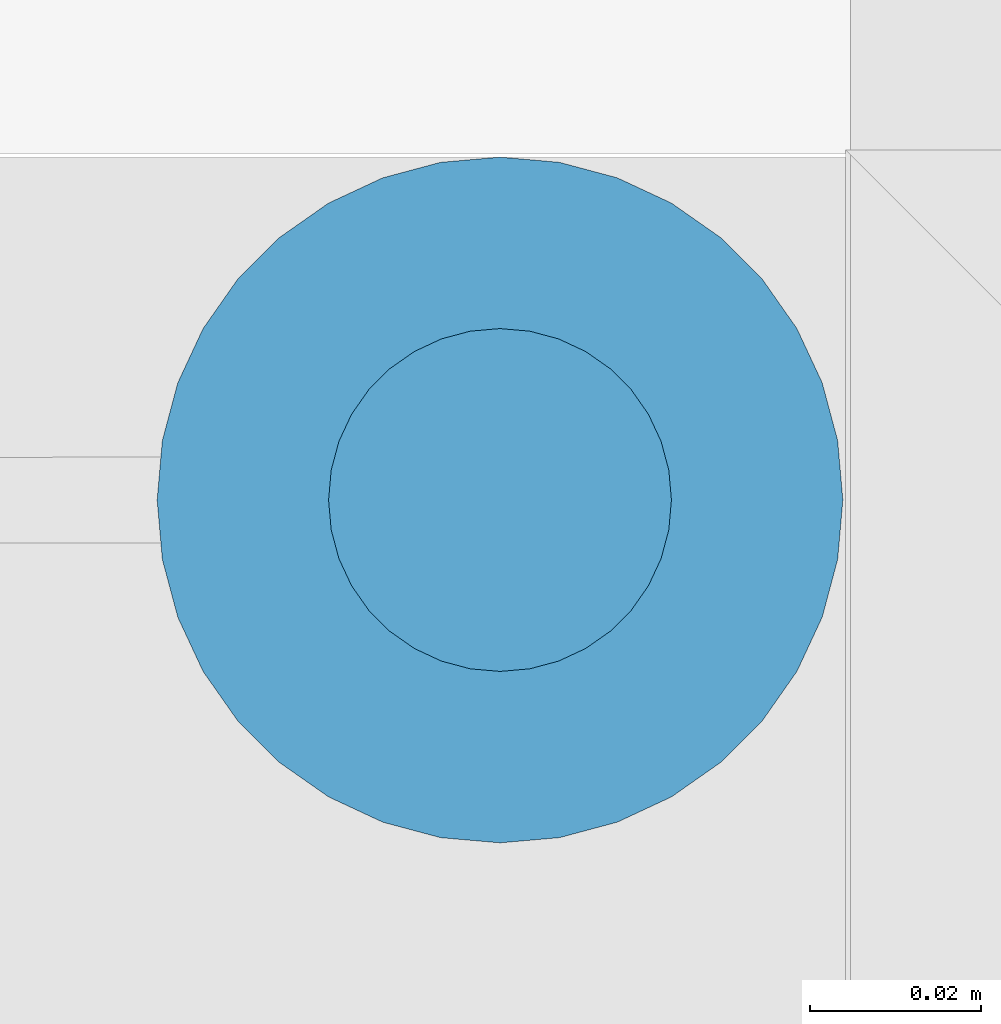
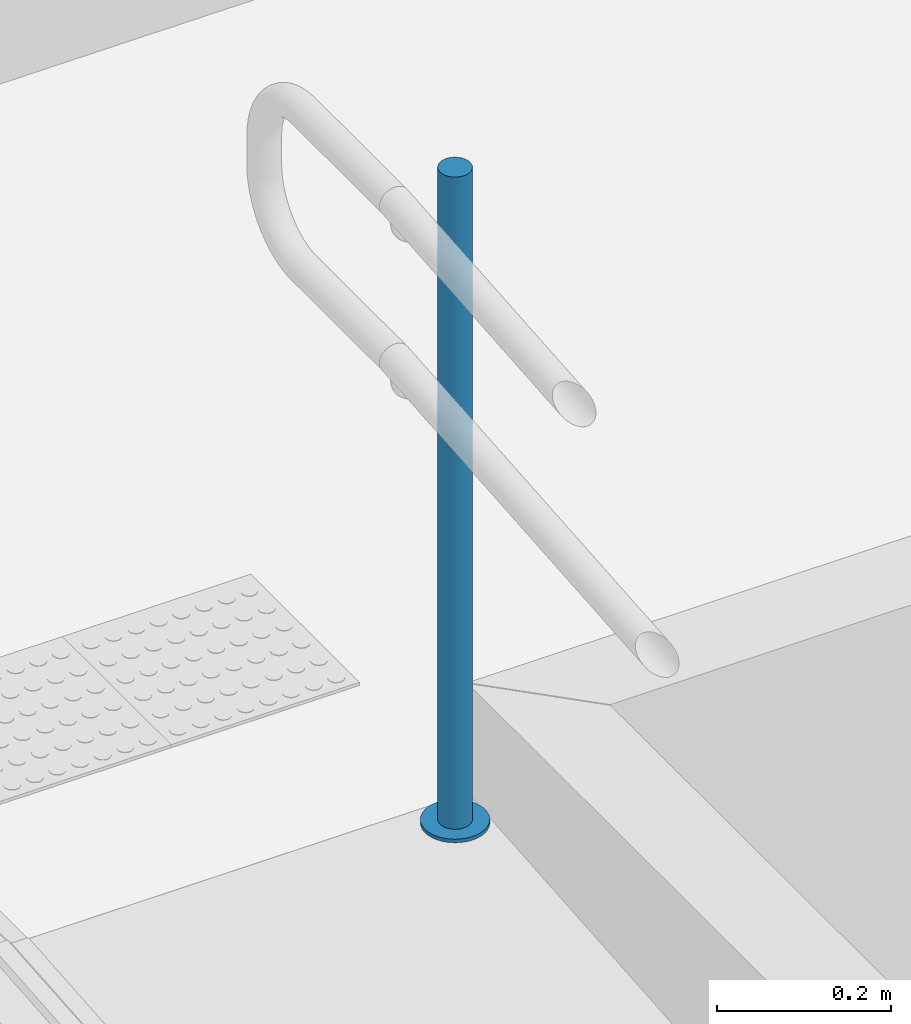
# One storey, part 105 of 237: 2 building element parts, 1 element without a shape of its own.
"""IFC2X3 building model written with IfcOpenShell, lengths in millimetres."""

from ifc_helpers import new_model, entity, si_unit, converted_unit, derived_unit, money_unit, direction, frame, origin_with_axes, place, context, subcontext, project, spatial, faceted_brep, material, type_object, element, aggregate, save


model = new_model("IFC2X3")

# Units and contexts
model_context = context("Model", 3, precision=0.01, world=origin_with_axes(), true_north=direction((0.0, 1.0)))
body_context = subcontext(model_context, "Body", "Model", "MODEL_VIEW")
ifc_project = project(units=[si_unit("LENGTHUNIT", "METRE", prefix="MILLI"), si_unit("AREAUNIT", "SQUARE_METRE"), si_unit("VOLUMEUNIT", "CUBIC_METRE"), converted_unit("PLANEANGLEUNIT", "DEGREE", entity("IfcPlaneAngleMeasure", 0.0174532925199), si_unit("PLANEANGLEUNIT", "RADIAN"), dimensions=[0, 0, 0, 0, 0, 0, 0]), money_unit("USD"), converted_unit("TIMEUNIT", "Year", entity("IfcTimeMeasure", 31556926.0), si_unit("TIMEUNIT", "SECOND"), dimensions=[0, 0, 1, 0, 0, 0, 0]), si_unit("MASSUNIT", "GRAM", prefix="KILO"), si_unit("THERMODYNAMICTEMPERATUREUNIT", "DEGREE_CELSIUS"), si_unit("LUMINOUSINTENSITYUNIT", "LUMEN"), si_unit("ENERGYUNIT", "JOULE", prefix="MEGA"), derived_unit("THERMALCONDUCTANCEUNIT", [(si_unit("POWERUNIT", "WATT"), 1), (si_unit("LENGTHUNIT", "METRE"), -1), (si_unit("THERMODYNAMICTEMPERATUREUNIT", "KELVIN"), -1)]), derived_unit("SPECIFICHEATCAPACITYUNIT", [(si_unit("ENERGYUNIT", "JOULE"), 1), (si_unit("MASSUNIT", "GRAM", prefix="KILO"), -1), (si_unit("THERMODYNAMICTEMPERATUREUNIT", "KELVIN"), -1)]), derived_unit("MASSDENSITYUNIT", [(si_unit("MASSUNIT", "GRAM", prefix="KILO"), 1), (si_unit("VOLUMEUNIT", "CUBIC_METRE"), -1)])], contexts=[model_context])

# Site, building, storey
site_placement = place(None, origin_with_axes())
site = spatial("IfcSite", under=ifc_project, at=site_placement, Name="Local", CompositionType="ELEMENT")
building_placement = place(site_placement, origin_with_axes())
building = spatial("IfcBuilding", under=site, at=building_placement, Name="Construção", CompositionType="ELEMENT")
storey_placement = place(building_placement, origin_with_axes())
storey = spatial("IfcBuildingStorey", under=building, at=storey_placement, Name="Pavimento Térreo", CompositionType="ELEMENT", Elevation=0.0)

# Railing, building element parts
railing_type = type_object("IfcRailingType", Name="Tipo de Guarda-Corpo", PredefinedType="NOTDEFINED")
railing_placement = place(storey_placement, frame((84886.384695, 12791.8118634, -5267.74663192), z_axis=(0.0, 0.0, 1.0), x_axis=(1.0, 0.0, 0.0)))
railing = element("IfcRailing", 1, at=railing_placement, inside=storey, type_object=railing_type, Name="Guarda-Corpo - 001", PredefinedType="NOTDEFINED")
ifc_material_1 = material(Name="Aço - Inoxidável")
building_element_part_1_placement = place(railing_placement, origin_with_axes())
building_element_part_1 = element("IfcBuildingElementPart", 2, at=building_element_part_1_placement, material=ifc_material_1, Name="Aço - Inoxidável", context=body_context, shape_type="Brep", body=[
    faceted_brep([(-21.0787903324, 3236.52168736, 274.891999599), (-20.7757769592, 3239.99472356, 274.891999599), (-20.7757769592, 3239.99472356, 1189.8919996), (-21.0787903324, 3236.52168736, 1189.8919996), (-21.0804534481, 3243.46761426, 274.891999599), (-21.9802866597, 3233.15403209, 274.891999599), (-23.4528744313, 3229.99408228, 274.891999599), (-25.451809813, 3227.13785138, 274.891999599), (-27.9163561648, 3224.67212454, 274.891999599), (-30.7716294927, 3222.67182161, 274.891999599), (-33.9308737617, 3221.19772078, 274.891999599), (-37.2980969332, 3220.29461187, 274.891999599), (-40.7709876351, 3219.98993538, 274.891999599), (-44.2440238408, 3220.29294876, 274.891999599), (-47.6116791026, 3221.19444508, 274.891999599), (-50.7716289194, 3222.66703286, 274.891999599), (-53.6278598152, 3224.66596824, 274.891999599), (-56.0935866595, 3227.13051459, 274.891999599), (-58.0938895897, 3229.98578792, 274.891999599), (-59.5679904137, 3233.14503219, 274.891999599), (-60.4710993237, 3236.51225536, 274.891999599), (-60.7757758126, 3239.98514606, 274.891999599), (-60.4727624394, 3243.45818227, 274.891999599), (-59.5712661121, 3246.82583753, 274.891999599), (-58.0986783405, 3249.98578734, 274.891999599), (-56.0997429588, 3252.84201824, 274.891999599), (-53.6351966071, 3255.30774508, 274.891999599), (-50.7799232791, 3257.30804801, 274.891999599), (-47.6206790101, 3258.78214884, 274.891999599), (-44.2534558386, 3259.68525775, 274.891999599), (-40.7805651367, 3259.98993424, 274.891999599), (-37.307528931, 3259.68692086, 274.891999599), (-33.9398736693, 3258.78542454, 274.891999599), (-30.7799238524, 3257.31283677, 274.891999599), (-27.9236929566, 3255.31390138, 274.891999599), (-25.4579661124, 3252.84935503, 274.891999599), (-23.4576631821, 3249.9940817, 274.891999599), (-21.9835623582, 3246.83483744, 274.891999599), (-21.0804534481, 3243.46761426, 1189.8919996), (-44.2440238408, 3220.29294876, 1189.8919996), (-40.7709876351, 3219.98993538, 1189.8919996), (-37.2980969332, 3220.29461187, 1189.8919996), (-33.9308737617, 3221.19772078, 1189.8919996), (-30.7716294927, 3222.67182161, 1189.8919996), (-27.9163561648, 3224.67212454, 1189.8919996), (-25.451809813, 3227.13785138, 1189.8919996), (-23.4528744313, 3229.99408228, 1189.8919996), (-21.9802866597, 3233.15403209, 1189.8919996), (-21.9835623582, 3246.83483744, 1189.8919996), (-23.4576631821, 3249.9940817, 1189.8919996), (-25.4579661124, 3252.84935503, 1189.8919996), (-27.9236929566, 3255.31390138, 1189.8919996), (-30.7799238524, 3257.31283677, 1189.8919996), (-33.9398736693, 3258.78542454, 1189.8919996), (-37.307528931, 3259.68692086, 1189.8919996), (-40.7805651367, 3259.98993424, 1189.8919996), (-44.2534558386, 3259.68525775, 1189.8919996), (-47.6206790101, 3258.78214884, 1189.8919996), (-50.7799232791, 3257.30804801, 1189.8919996), (-53.6351966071, 3255.30774508, 1189.8919996), (-56.0997429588, 3252.84201824, 1189.8919996), (-58.0986783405, 3249.98578734, 1189.8919996), (-59.5712661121, 3246.82583753, 1189.8919996), (-60.4727624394, 3243.45818227, 1189.8919996), (-60.7757758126, 3239.98514606, 1189.8919996), (-60.4710993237, 3236.51225536, 1189.8919996), (-59.5679904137, 3233.14503219, 1189.8919996), (-58.0938895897, 3229.98578792, 1189.8919996), (-56.0935866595, 3227.13051459, 1189.8919996), (-53.6278598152, 3224.66596824, 1189.8919996), (-50.7716289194, 3222.66703286, 1189.8919996), (-47.6116791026, 3221.19444508, 1189.8919996)], [[[0, 1, 2, 3]], [[4, 1, 0, 5, 6, 7, 8, 9, 10, 11, 12, 13, 14, 15, 16, 17, 18, 19, 20, 21, 22, 23, 24, 25, 26, 27, 28, 29, 30, 31, 32, 33, 34, 35, 36, 37]], [[1, 4, 38, 2]], [[39, 40, 41, 42, 43, 44, 45, 46, 47, 3, 2, 38, 48, 49, 50, 51, 52, 53, 54, 55, 56, 57, 58, 59, 60, 61, 62, 63, 64, 65, 66, 67, 68, 69, 70, 71]], [[5, 0, 3, 47]], [[6, 5, 47, 46]], [[7, 6, 46, 45]], [[8, 7, 45, 44]], [[9, 8, 44, 43]], [[10, 9, 43, 42]], [[11, 10, 42, 41]], [[12, 11, 41, 40]], [[13, 12, 40, 39]], [[14, 13, 39, 71]], [[15, 14, 71, 70]], [[16, 15, 70, 69]], [[17, 16, 69, 68]], [[18, 17, 68, 67]], [[19, 18, 67, 66]], [[20, 19, 66, 65]], [[21, 20, 65, 64]], [[22, 21, 64, 63]], [[23, 22, 63, 62]], [[24, 23, 62, 61]], [[25, 24, 61, 60]], [[26, 25, 60, 59]], [[27, 26, 59, 58]], [[28, 27, 58, 57]], [[29, 28, 57, 56]], [[30, 29, 56, 55]], [[31, 30, 55, 54]], [[32, 31, 54, 53]], [[33, 32, 53, 52]], [[34, 33, 52, 51]], [[35, 34, 51, 50]], [[36, 35, 50, 49]], [[37, 36, 49, 48]], [[4, 37, 48, 38]]]),
])
ifc_material_2 = material(Name="Alumínio")
building_element_part_2_placement = place(railing_placement, origin_with_axes())
building_element_part_2 = element("IfcBuildingElementPart", 3, at=building_element_part_2_placement, material=ifc_material_2, Name="Alumínio", context=body_context, shape_type="Brep", body=[
    faceted_brep([(-40.7853538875, 3279.98993366, 269.891999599), (-47.7311352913, 3279.38058069, 269.891999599), (-47.7311352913, 3279.38058069, 274.891999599), (-40.7853538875, 3279.98993366, 274.891999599), (-33.8392814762, 3279.38390692, 269.891999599), (-27.1039709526, 3277.58091426, 269.891999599), (-20.7840713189, 3274.63573872, 269.891999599), (-15.0716095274, 3270.63786796, 269.891999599), (-10.1401558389, 3265.70877525, 269.891999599), (-6.13954997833, 3259.9982286, 269.891999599), (-3.1913483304, 3253.67974006, 269.891999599), (-1.38513051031, 3246.94529372, 269.891999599), (-0.775777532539, 3239.99951231, 269.891999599), (-1.38180427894, 3233.0534399, 269.891999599), (-3.1847969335, 3226.31812938, 269.891999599), (-6.12997247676, 3219.99822974, 269.891999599), (-10.1278432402, 3214.28576795, 269.891999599), (-15.0569359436, 3209.35431426, 269.891999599), (-20.7674825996, 3205.3537084, 269.891999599), (-27.0859711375, 3202.40550676, 269.891999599), (-33.8204174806, 3200.59928894, 269.891999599), (-40.7661988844, 3199.98993596, 269.891999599), (-47.7122712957, 3200.5959627, 269.891999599), (-54.4475818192, 3202.39895536, 269.891999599), (-60.767481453, 3205.3441309, 269.891999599), (-66.4799432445, 3209.34200167, 269.891999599), (-71.411396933, 3214.27109437, 269.891999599), (-75.4120027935, 3219.98164102, 269.891999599), (-78.3602044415, 3226.30012956, 269.891999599), (-80.1664222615, 3233.03457591, 269.891999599), (-80.7757752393, 3239.98035731, 269.891999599), (-80.1697484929, 3246.92642972, 269.891999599), (-78.3667558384, 3253.66174024, 269.891999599), (-75.4215802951, 3259.98163988, 269.891999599), (-71.4237095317, 3265.69410167, 269.891999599), (-66.4946168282, 3270.62555536, 269.891999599), (-60.7840701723, 3274.62616122, 269.891999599), (-54.4655816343, 3277.57436287, 269.891999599), (-54.4655816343, 3277.57436287, 274.891999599), (-60.7840701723, 3274.62616122, 274.891999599), (-66.4946168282, 3270.62555536, 274.891999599), (-71.4237095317, 3265.69410167, 274.891999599), (-75.4215802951, 3259.98163988, 274.891999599), (-78.3667558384, 3253.66174024, 274.891999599), (-80.1697484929, 3246.92642972, 274.891999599), (-80.7757752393, 3239.98035731, 274.891999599), (-80.1664222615, 3233.03457591, 274.891999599), (-78.3602044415, 3226.30012956, 274.891999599), (-75.4120027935, 3219.98164102, 274.891999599), (-71.411396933, 3214.27109437, 274.891999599), (-66.4799432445, 3209.34200167, 274.891999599), (-60.767481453, 3205.3441309, 274.891999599), (-54.4475818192, 3202.39895536, 274.891999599), (-47.7122712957, 3200.5959627, 274.891999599), (-40.7661988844, 3199.98993596, 274.891999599), (-33.8204174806, 3200.59928894, 274.891999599), (-27.0859711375, 3202.40550676, 274.891999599), (-20.7674825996, 3205.3537084, 274.891999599), (-15.0569359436, 3209.35431426, 274.891999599), (-10.1278432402, 3214.28576795, 274.891999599), (-6.12997247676, 3219.99822974, 274.891999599), (-3.1847969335, 3226.31812938, 274.891999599), (-1.38180427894, 3233.0534399, 274.891999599), (-0.775777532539, 3239.99951231, 274.891999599), (-1.38513051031, 3246.94529372, 274.891999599), (-3.1913483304, 3253.67974006, 274.891999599), (-6.13954997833, 3259.9982286, 274.891999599), (-10.1401558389, 3265.70877525, 274.891999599), (-15.0716095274, 3270.63786796, 274.891999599), (-20.7840713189, 3274.63573872, 274.891999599), (-27.1039709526, 3277.58091426, 274.891999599), (-33.8392814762, 3279.38390692, 274.891999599)], [[[0, 1, 2, 3]], [[0, 4, 5, 6, 7, 8, 9, 10, 11, 12, 13, 14, 15, 16, 17, 18, 19, 20, 21, 22, 23, 24, 25, 26, 27, 28, 29, 30, 31, 32, 33, 34, 35, 36, 37, 1]], [[1, 37, 38, 2]], [[3, 2, 38, 39, 40, 41, 42, 43, 44, 45, 46, 47, 48, 49, 50, 51, 52, 53, 54, 55, 56, 57, 58, 59, 60, 61, 62, 63, 64, 65, 66, 67, 68, 69, 70, 71]], [[4, 0, 3, 71]], [[5, 4, 71, 70]], [[6, 5, 70, 69]], [[7, 6, 69, 68]], [[8, 7, 68, 67]], [[9, 8, 67, 66]], [[10, 9, 66, 65]], [[11, 10, 65, 64]], [[12, 11, 64, 63]], [[13, 12, 63, 62]], [[14, 13, 62, 61]], [[15, 14, 61, 60]], [[16, 15, 60, 59]], [[17, 16, 59, 58]], [[18, 17, 58, 57]], [[19, 18, 57, 56]], [[20, 19, 56, 55]], [[21, 20, 55, 54]], [[22, 21, 54, 53]], [[23, 22, 53, 52]], [[24, 23, 52, 51]], [[25, 24, 51, 50]], [[26, 25, 50, 49]], [[27, 26, 49, 48]], [[28, 27, 48, 47]], [[29, 28, 47, 46]], [[30, 29, 46, 45]], [[31, 30, 45, 44]], [[32, 31, 44, 43]], [[33, 32, 43, 42]], [[34, 33, 42, 41]], [[35, 34, 41, 40]], [[36, 35, 40, 39]], [[37, 36, 39, 38]]]),
])
aggregate(railing, [building_element_part_1, building_element_part_2])

save(model, "model.ifc")
